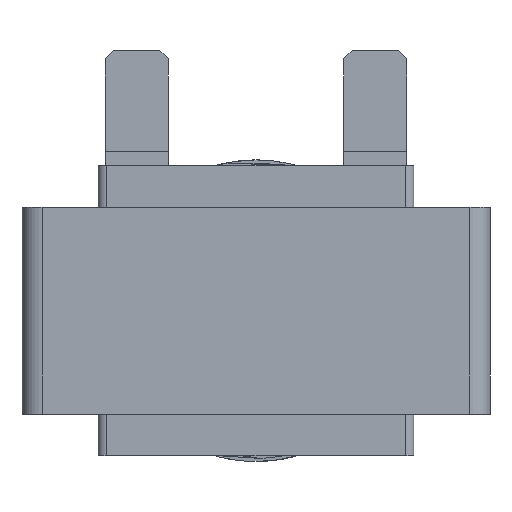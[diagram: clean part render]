
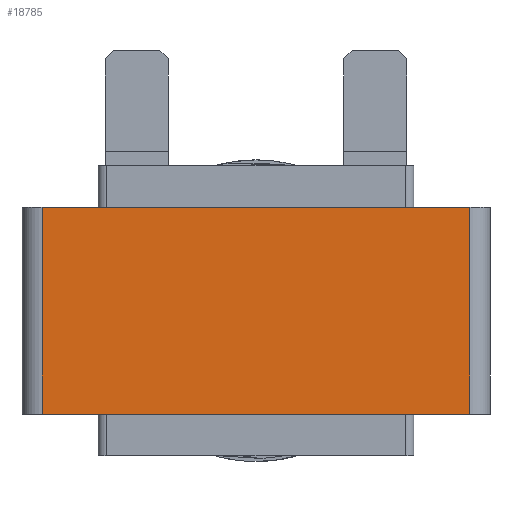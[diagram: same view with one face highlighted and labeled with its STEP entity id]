
A CAD part, front view. The second image highlights one B-rep face of the part: STEP entity #18785.
In plain terms, the highlighted planar face has unit normal (0, -1, 0).
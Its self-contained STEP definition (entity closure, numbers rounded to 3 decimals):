
#19 = VECTOR ( 'NONE', #11758, 1000. ) ;
#350 = VECTOR ( 'NONE', #14102, 1000. ) ;
#1071 = CARTESIAN_POINT ( 'NONE',  ( 25.43, -10.881, -12.3 ) ) ;
#2237 = ORIENTED_EDGE ( 'NONE', *, *, #18258, .T. ) ;
#2820 = EDGE_CURVE ( 'NONE', #12529, #7069, #5024, .T. ) ;
#2910 = CARTESIAN_POINT ( 'NONE',  ( -25.43, -10.881, -12.3 ) ) ;
#3393 = VECTOR ( 'NONE', #3755, 1000. ) ;
#3551 = LINE ( 'NONE', #14963, #19 ) ;
#3755 = DIRECTION ( 'NONE',  ( 1., 0., 0. ) ) ;
#4006 = CARTESIAN_POINT ( 'NONE',  ( -25.43, -10.881, 12.3 ) ) ;
#4440 = DIRECTION ( 'NONE',  ( 1., 0., 0. ) ) ;
#4569 = CARTESIAN_POINT ( 'NONE',  ( 25.43, -10.881, 12.3 ) ) ;
#5024 = LINE ( 'NONE', #18539, #3393 ) ;
#5112 = CARTESIAN_POINT ( 'NONE',  ( 25.43, -10.881, 12.3 ) ) ;
#7001 = ORIENTED_EDGE ( 'NONE', *, *, #11318, .T. ) ;
#7069 = VERTEX_POINT ( 'NONE', #4569 ) ;
#7131 = DIRECTION ( 'NONE',  ( 0., 0., 1. ) ) ;
#8550 = CARTESIAN_POINT ( 'NONE',  ( -25.43, -10.881, 12.3 ) ) ;
#9814 = VERTEX_POINT ( 'NONE', #2910 ) ;
#10643 = EDGE_CURVE ( 'NONE', #7069, #18837, #18826, .T. ) ;
#11024 = ORIENTED_EDGE ( 'NONE', *, *, #2820, .F. ) ;
#11318 = EDGE_CURVE ( 'NONE', #9814, #18837, #15518, .T. ) ;
#11758 = DIRECTION ( 'NONE',  ( 0., 0., -1. ) ) ;
#12529 = VERTEX_POINT ( 'NONE', #4006 ) ;
#13285 = CARTESIAN_POINT ( 'NONE',  ( -25.43, -10.881, -12.3 ) ) ;
#13300 = ORIENTED_EDGE ( 'NONE', *, *, #10643, .F. ) ;
#14102 = DIRECTION ( 'NONE',  ( 0., 0., -1. ) ) ;
#14244 = FACE_OUTER_BOUND ( 'NONE', #15863, .T. ) ;
#14963 = CARTESIAN_POINT ( 'NONE',  ( -25.43, -10.881, 12.3 ) ) ;
#15518 = LINE ( 'NONE', #13285, #16449 ) ;
#15863 = EDGE_LOOP ( 'NONE', ( #7001, #13300, #11024, #2237 ) ) ;
#16449 = VECTOR ( 'NONE', #4440, 1000. ) ;
#16967 = AXIS2_PLACEMENT_3D ( 'NONE', #8550, #18991, #7131 ) ;
#17462 = PLANE ( 'NONE',  #16967 ) ;
#18258 = EDGE_CURVE ( 'NONE', #12529, #9814, #3551, .T. ) ;
#18539 = CARTESIAN_POINT ( 'NONE',  ( -25.43, -10.881, 12.3 ) ) ;
#18785 = ADVANCED_FACE ( 'NONE', ( #14244 ), #17462, .F. ) ;
#18826 = LINE ( 'NONE', #5112, #350 ) ;
#18837 = VERTEX_POINT ( 'NONE', #1071 ) ;
#18991 = DIRECTION ( 'NONE',  ( 0., 1., 0. ) ) ;
